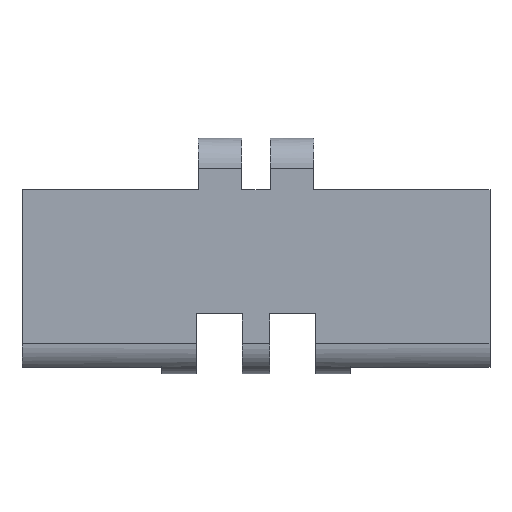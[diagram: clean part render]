
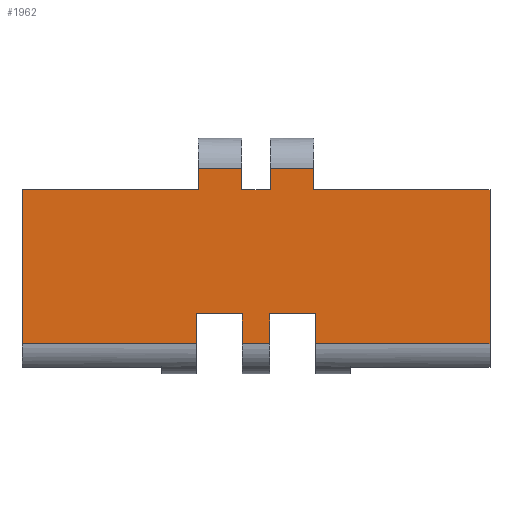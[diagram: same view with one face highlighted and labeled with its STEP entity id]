
A CAD part, top view. The second image highlights one B-rep face of the part: STEP entity #1962.
In plain terms, the highlighted planar face has unit normal (0, 0, 1).
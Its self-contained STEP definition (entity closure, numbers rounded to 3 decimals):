
#57=CARTESIAN_POINT('Line Origine',(-12.5,16.718,6.5)) ;
#61=CARTESIAN_POINT('Vertex',(-12.5,19.05,6.5)) ;
#63=CARTESIAN_POINT('Vertex',(-12.5,14.386,6.5)) ;
#130=CARTESIAN_POINT('Line Origine',(0.,19.05,6.5)) ;
#134=CARTESIAN_POINT('Vertex',(-3.1,19.05,6.5)) ;
#190=CARTESIAN_POINT('Vertex',(3.1,14.386,6.5)) ;
#193=CARTESIAN_POINT('Line Origine',(3.1,16.718,6.5)) ;
#197=CARTESIAN_POINT('Vertex',(3.1,19.05,6.5)) ;
#1329=CARTESIAN_POINT('Vertex',(12.5,19.05,6.5)) ;
#1332=CARTESIAN_POINT('Line Origine',(12.5,16.718,6.5)) ;
#1336=CARTESIAN_POINT('Vertex',(12.5,14.386,6.5)) ;
#1356=CARTESIAN_POINT('Line Origine',(0.,19.05,6.5)) ;
#1375=CARTESIAN_POINT('Line Origine',(-3.1,16.718,6.5)) ;
#1379=CARTESIAN_POINT('Vertex',(-3.1,14.386,6.5)) ;
#1406=CARTESIAN_POINT('Line Origine',(0.,-19.05,6.5)) ;
#1410=CARTESIAN_POINT('Vertex',(2.95,-19.05,6.5)) ;
#1412=CARTESIAN_POINT('Vertex',(-2.95,-19.05,6.5)) ;
#1468=CARTESIAN_POINT('Vertex',(-12.95,-12.55,6.5)) ;
#1471=CARTESIAN_POINT('Line Origine',(-12.95,-15.8,6.5)) ;
#1475=CARTESIAN_POINT('Vertex',(-12.95,-19.05,6.5)) ;
#1508=CARTESIAN_POINT('Line Origine',(-2.95,-15.8,6.5)) ;
#1512=CARTESIAN_POINT('Vertex',(-2.95,-12.55,6.5)) ;
#1545=CARTESIAN_POINT('Line Origine',(0.,-12.55,6.5)) ;
#1578=CARTESIAN_POINT('Vertex',(2.95,-12.55,6.5)) ;
#1581=CARTESIAN_POINT('Line Origine',(2.95,-15.8,6.5)) ;
#1608=CARTESIAN_POINT('Vertex',(12.95,-12.55,6.5)) ;
#1629=CARTESIAN_POINT('Vertex',(12.95,-19.05,6.5)) ;
#1632=CARTESIAN_POINT('Line Origine',(12.95,-15.8,6.5)) ;
#1655=CARTESIAN_POINT('Line Origine',(0.,-12.55,6.5)) ;
#1765=CARTESIAN_POINT('Vertex',(-50.8,-19.05,6.5)) ;
#1768=CARTESIAN_POINT('Line Origine',(-50.8,-4.879,6.5)) ;
#1772=CARTESIAN_POINT('Vertex',(-50.8,14.386,6.5)) ;
#1837=CARTESIAN_POINT('Vertex',(50.8,14.386,6.5)) ;
#1840=CARTESIAN_POINT('Line Origine',(50.8,-4.879,6.5)) ;
#1844=CARTESIAN_POINT('Vertex',(50.8,-19.05,6.5)) ;
#1867=CARTESIAN_POINT('Line Origine',(0.,14.386,6.5)) ;
#1879=CARTESIAN_POINT('Line Origine',(0.,14.386,6.5)) ;
#1891=CARTESIAN_POINT('Line Origine',(0.,14.386,6.5)) ;
#1903=CARTESIAN_POINT('Line Origine',(0.,-19.05,6.5)) ;
#1919=CARTESIAN_POINT('Line Origine',(0.,-19.05,6.5)) ;
#1935=CARTESIAN_POINT('Axis2P3D Location',(0.,-25.55,6.5)) ;
#58=DIRECTION('Vector Direction',(0.,-1.,0.)) ;
#131=DIRECTION('Vector Direction',(1.,0.,0.)) ;
#194=DIRECTION('Vector Direction',(0.,-1.,0.)) ;
#1333=DIRECTION('Vector Direction',(0.,-1.,0.)) ;
#1357=DIRECTION('Vector Direction',(1.,0.,0.)) ;
#1376=DIRECTION('Vector Direction',(0.,-1.,0.)) ;
#1407=DIRECTION('Vector Direction',(1.,0.,0.)) ;
#1472=DIRECTION('Vector Direction',(0.,-1.,0.)) ;
#1509=DIRECTION('Vector Direction',(0.,-1.,0.)) ;
#1546=DIRECTION('Vector Direction',(1.,0.,0.)) ;
#1582=DIRECTION('Vector Direction',(0.,-1.,0.)) ;
#1633=DIRECTION('Vector Direction',(0.,-1.,0.)) ;
#1656=DIRECTION('Vector Direction',(1.,0.,0.)) ;
#1769=DIRECTION('Vector Direction',(0.,1.,0.)) ;
#1841=DIRECTION('Vector Direction',(0.,1.,0.)) ;
#1868=DIRECTION('Vector Direction',(1.,0.,0.)) ;
#1880=DIRECTION('Vector Direction',(1.,0.,0.)) ;
#1892=DIRECTION('Vector Direction',(1.,0.,0.)) ;
#1904=DIRECTION('Vector Direction',(1.,0.,0.)) ;
#1920=DIRECTION('Vector Direction',(1.,0.,0.)) ;
#1936=DIRECTION('Axis2P3D Direction',(0.,0.,-1.)) ;
#1937=DIRECTION('Axis2P3D XDirection',(0.,1.,0.)) ;
#1938=AXIS2_PLACEMENT_3D('Plane Axis2P3D',#1935,#1936,#1937) ;
#1941=ORIENTED_EDGE('',*,*,#199,.T.) ;
#1942=ORIENTED_EDGE('',*,*,#1895,.F.) ;
#1943=ORIENTED_EDGE('',*,*,#1381,.F.) ;
#1944=ORIENTED_EDGE('',*,*,#136,.T.) ;
#1945=ORIENTED_EDGE('',*,*,#65,.T.) ;
#1946=ORIENTED_EDGE('',*,*,#1883,.T.) ;
#1947=ORIENTED_EDGE('',*,*,#1774,.F.) ;
#1948=ORIENTED_EDGE('',*,*,#1907,.F.) ;
#1949=ORIENTED_EDGE('',*,*,#1477,.F.) ;
#1950=ORIENTED_EDGE('',*,*,#1549,.T.) ;
#1951=ORIENTED_EDGE('',*,*,#1514,.T.) ;
#1952=ORIENTED_EDGE('',*,*,#1414,.F.) ;
#1953=ORIENTED_EDGE('',*,*,#1585,.F.) ;
#1954=ORIENTED_EDGE('',*,*,#1659,.T.) ;
#1955=ORIENTED_EDGE('',*,*,#1636,.T.) ;
#1956=ORIENTED_EDGE('',*,*,#1923,.F.) ;
#1957=ORIENTED_EDGE('',*,*,#1846,.T.) ;
#1958=ORIENTED_EDGE('',*,*,#1871,.T.) ;
#1959=ORIENTED_EDGE('',*,*,#1338,.F.) ;
#1960=ORIENTED_EDGE('',*,*,#1360,.F.) ;
#59=VECTOR('Line Direction',#58,1.) ;
#132=VECTOR('Line Direction',#131,1.) ;
#195=VECTOR('Line Direction',#194,1.) ;
#1334=VECTOR('Line Direction',#1333,1.) ;
#1358=VECTOR('Line Direction',#1357,1.) ;
#1377=VECTOR('Line Direction',#1376,1.) ;
#1408=VECTOR('Line Direction',#1407,1.) ;
#1473=VECTOR('Line Direction',#1472,1.) ;
#1510=VECTOR('Line Direction',#1509,1.) ;
#1547=VECTOR('Line Direction',#1546,1.) ;
#1583=VECTOR('Line Direction',#1582,1.) ;
#1634=VECTOR('Line Direction',#1633,1.) ;
#1657=VECTOR('Line Direction',#1656,1.) ;
#1770=VECTOR('Line Direction',#1769,1.) ;
#1842=VECTOR('Line Direction',#1841,1.) ;
#1869=VECTOR('Line Direction',#1868,1.) ;
#1881=VECTOR('Line Direction',#1880,1.) ;
#1893=VECTOR('Line Direction',#1892,1.) ;
#1905=VECTOR('Line Direction',#1904,1.) ;
#1921=VECTOR('Line Direction',#1920,1.) ;
#1962=ADVANCED_FACE('Body.2',(#1961),#1939,.F.) ;
#65=EDGE_CURVE('',#62,#64,#60,.T.) ;
#136=EDGE_CURVE('',#135,#62,#133,.F.) ;
#199=EDGE_CURVE('',#198,#191,#196,.T.) ;
#1338=EDGE_CURVE('',#1330,#1337,#1335,.T.) ;
#1360=EDGE_CURVE('',#198,#1330,#1359,.T.) ;
#1381=EDGE_CURVE('',#135,#1380,#1378,.T.) ;
#1414=EDGE_CURVE('',#1411,#1413,#1409,.F.) ;
#1477=EDGE_CURVE('',#1469,#1476,#1474,.T.) ;
#1514=EDGE_CURVE('',#1513,#1413,#1511,.T.) ;
#1549=EDGE_CURVE('',#1469,#1513,#1548,.T.) ;
#1585=EDGE_CURVE('',#1579,#1411,#1584,.T.) ;
#1636=EDGE_CURVE('',#1609,#1630,#1635,.T.) ;
#1659=EDGE_CURVE('',#1579,#1609,#1658,.T.) ;
#1774=EDGE_CURVE('',#1766,#1773,#1771,.T.) ;
#1846=EDGE_CURVE('',#1845,#1838,#1843,.T.) ;
#1871=EDGE_CURVE('',#1838,#1337,#1870,.F.) ;
#1883=EDGE_CURVE('',#64,#1773,#1882,.F.) ;
#1895=EDGE_CURVE('',#1380,#191,#1894,.T.) ;
#1907=EDGE_CURVE('',#1476,#1766,#1906,.F.) ;
#1923=EDGE_CURVE('',#1845,#1630,#1922,.F.) ;
#1940=EDGE_LOOP('',(#1941,#1942,#1943,#1944,#1945,#1946,#1947,#1948,#1949,#1950,#1951,#1952,#1953,#1954,#1955,#1956,#1957,#1958,#1959,#1960)) ;
#1961=FACE_OUTER_BOUND('',#1940,.T.) ;
#60=LINE('Line',#57,#59) ;
#133=LINE('Line',#130,#132) ;
#196=LINE('Line',#193,#195) ;
#1335=LINE('Line',#1332,#1334) ;
#1359=LINE('Line',#1356,#1358) ;
#1378=LINE('Line',#1375,#1377) ;
#1409=LINE('Line',#1406,#1408) ;
#1474=LINE('Line',#1471,#1473) ;
#1511=LINE('Line',#1508,#1510) ;
#1548=LINE('Line',#1545,#1547) ;
#1584=LINE('Line',#1581,#1583) ;
#1635=LINE('Line',#1632,#1634) ;
#1658=LINE('Line',#1655,#1657) ;
#1771=LINE('Line',#1768,#1770) ;
#1843=LINE('Line',#1840,#1842) ;
#1870=LINE('Line',#1867,#1869) ;
#1882=LINE('Line',#1879,#1881) ;
#1894=LINE('Line',#1891,#1893) ;
#1906=LINE('Line',#1903,#1905) ;
#1922=LINE('Line',#1919,#1921) ;
#1939=PLANE('',#1938) ;
#62=VERTEX_POINT('',#61) ;
#64=VERTEX_POINT('',#63) ;
#135=VERTEX_POINT('',#134) ;
#191=VERTEX_POINT('',#190) ;
#198=VERTEX_POINT('',#197) ;
#1330=VERTEX_POINT('',#1329) ;
#1337=VERTEX_POINT('',#1336) ;
#1380=VERTEX_POINT('',#1379) ;
#1411=VERTEX_POINT('',#1410) ;
#1413=VERTEX_POINT('',#1412) ;
#1469=VERTEX_POINT('',#1468) ;
#1476=VERTEX_POINT('',#1475) ;
#1513=VERTEX_POINT('',#1512) ;
#1579=VERTEX_POINT('',#1578) ;
#1609=VERTEX_POINT('',#1608) ;
#1630=VERTEX_POINT('',#1629) ;
#1766=VERTEX_POINT('',#1765) ;
#1773=VERTEX_POINT('',#1772) ;
#1838=VERTEX_POINT('',#1837) ;
#1845=VERTEX_POINT('',#1844) ;
